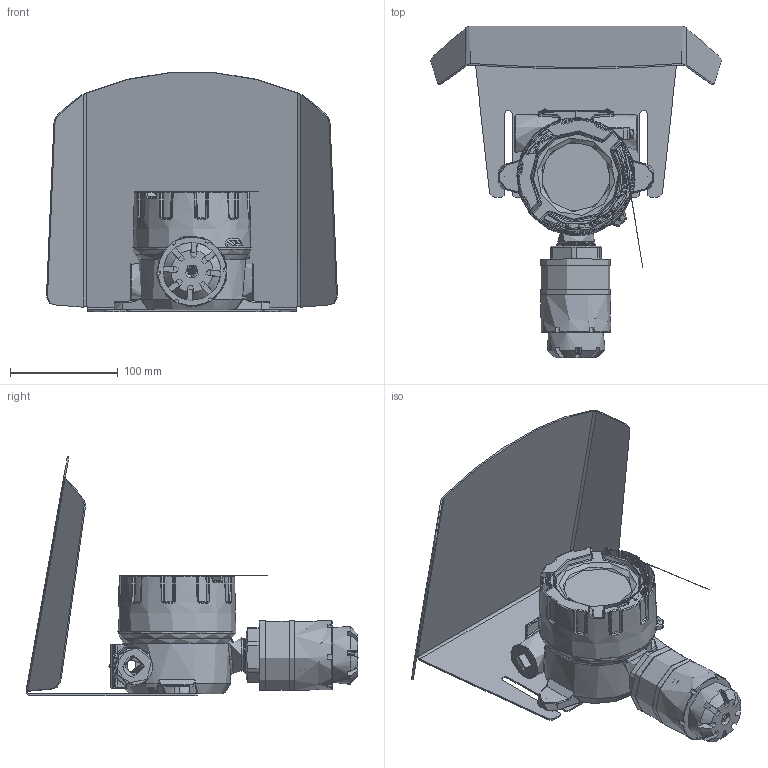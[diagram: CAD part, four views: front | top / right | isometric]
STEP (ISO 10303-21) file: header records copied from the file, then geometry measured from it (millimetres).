
FILE_DESCRIPTION(('STEP AP214'), '1');
FILE_NAME('ÄÃÑ Ýðèñ-210_Êîðïóñ', '', ('UNSPECIFIED'), ('UNSPECIFIED'), 'ASCON STEP Converter 1.3', 'ASCON Math Kernel', '');
FILE_SCHEMA(('AUTOMOTIVE_DESIGN { 1 0 10303 214 3 1 1}'));
Length unit declared in the file: millimetre
Products named in the file (20): korpus XD-I-obrobka - KU12-15; USZCZELKA XD-I ; podklladka PTN-1,5; podkl. M4; wkret PTN-1,5; podkladka. ET4; podkl. M5; wkret ETN-4; L4357- Pokrywa XD-ILwin - obrobka - napis w j.rosyjskim - ku13-16; L1652.1; L2239-piersc W95x3.; wkrêt blok M3; 橾迕.413216.210.06.01-06; jin75D2nz67; 橾迕.413216.007.01; 橾迕.413216.210.12
Assembly tree (20 placements, depth 3):
  (unnamed)
    (unnamed)
      korpus XD-I-obrobka - KU12-15
      USZCZELKA XD-I 
      podklladka PTN-1,5
      podkl. M4
      wkret PTN-1,5
      podkladka. ET4
      podkl. M5
      wkret ETN-4
    (unnamed)
      L4357- Pokrywa XD-ILwin - obrobka - napis w j.rosyjskim - ku13-16
      L1652.1
      L2239-piersc W95x3.
      wkrêt blok M3
    橾迕.413216.210.06.01-06
    jin75D2nz67
    橾迕.413216.007.01
    橾迕.413216.210.12
    (unnamed)  x2
Bounding box: 270.61 x 308.85 x 222.54 mm (x, y, z)
Volume: 344118.5 mm3; surface area: 391104 mm2
Topology: 16 solids, 18 shells, 4369 faces, 11957 edges, 7656 vertices
Faces by surface type: plane 2046, extrusion 1417, bspline 308, cylinder 291, cone 127, torus 110, sphere 70
Full cylindrical faces by diameter (mm): 0.75 x12, 2 x5, 2.459 x11, 2.5 x2, 2.6 x1, 2.8 x1, 3 x1, 3.242 x1, 3.5 x2, 3.6 x3, 3.9 x1, 4 x1, 4.1 x1, 4.134 x1, 4.5 x1, 4.9 x1, 5 x1, 5.1 x1, 6 x1, 7 x1, 7.28 x1, 7.95 x8, 8.28 x1, 8.4 x1, 10.106 x1, 17 x1, 18.376 x3, 20 x1, 30 x3, 32 x2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
Entity records: 200229 total; most frequent: CARTESIAN_POINT 64940, ORIENTED_EDGE 22536, DIRECTION 15233, EDGE_CURVE 11268, VECTOR 7751, VERTEX_POINT 7474, LINE 6334, B_SPLINE_CURVE_WITH_KNOTS 5264
